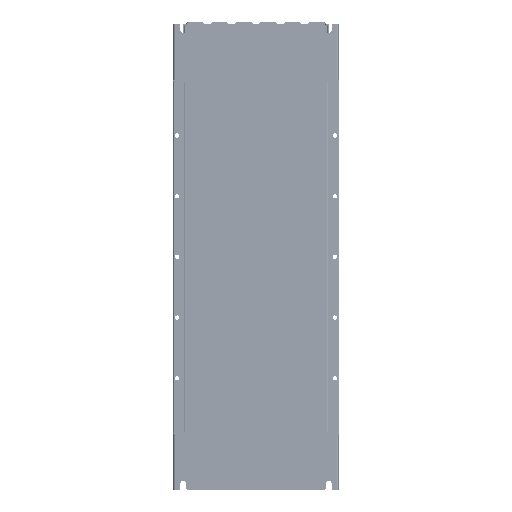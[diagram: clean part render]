
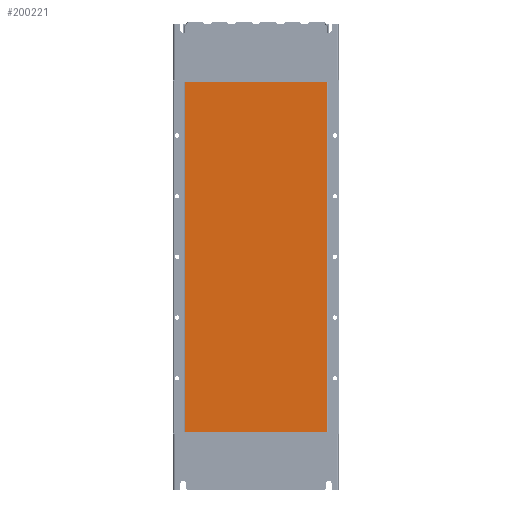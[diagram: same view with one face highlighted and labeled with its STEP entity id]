
A CAD part, front view. The second image highlights one B-rep face of the part: STEP entity #200221.
In plain terms, the highlighted planar face has unit normal (0, -1, 0).
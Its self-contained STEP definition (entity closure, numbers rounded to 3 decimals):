
#119202 = CARTESIAN_POINT ( 'NONE',  ( -146.5, -176.5, -19. ) ) ;
#119219 = DIRECTION ( 'NONE',  ( 0., 0., -1. ) ) ;
#119220 = VECTOR ( 'NONE', #119219, 1000. ) ;
#119224 = CARTESIAN_POINT ( 'NONE',  ( -146.5, -176.5, -19. ) ) ;
#119225 = LINE ( 'NONE', #119224, #119220 ) ;
#119278 = CARTESIAN_POINT ( 'NONE',  ( -146.5, -176.5, -901. ) ) ;
#126670 = CARTESIAN_POINT ( 'NONE',  ( 146.5, -176.5, -19. ) ) ;
#126673 = DIRECTION ( 'NONE',  ( -1., 0., 0. ) ) ;
#126676 = VECTOR ( 'NONE', #126673, 1000. ) ;
#126679 = CARTESIAN_POINT ( 'NONE',  ( -149., -176.5, -19. ) ) ;
#126682 = LINE ( 'NONE', #126679, #126676 ) ;
#127563 = CARTESIAN_POINT ( 'NONE',  ( 146.5, -176.5, -901. ) ) ;
#127856 = DIRECTION ( 'NONE',  ( 0., 0., -1. ) ) ;
#127858 = DIRECTION ( 'NONE',  ( 0., -1., 0. ) ) ;
#127861 = CARTESIAN_POINT ( 'NONE',  ( 100., -176.5, -87. ) ) ;
#127862 = AXIS2_PLACEMENT_3D ( 'NONE', #127861, #127858, #127856 ) ;
#127865 = CIRCLE ( 'NONE', #127862, 3.4 ) ;
#127879 = CARTESIAN_POINT ( 'NONE',  ( 100., -176.5, -83.6 ) ) ;
#127892 = CARTESIAN_POINT ( 'NONE',  ( 100., -176.5, -90.4 ) ) ;
#127895 = DIRECTION ( 'NONE',  ( 0., 0., -1. ) ) ;
#127898 = DIRECTION ( 'NONE',  ( 0., -1., 0. ) ) ;
#127899 = CARTESIAN_POINT ( 'NONE',  ( 100., -176.5, -87. ) ) ;
#127901 = AXIS2_PLACEMENT_3D ( 'NONE', #127899, #127898, #127895 ) ;
#127902 = CIRCLE ( 'NONE', #127901, 3.4 ) ;
#127913 = DIRECTION ( 'NONE',  ( 0., 0., -1. ) ) ;
#127916 = DIRECTION ( 'NONE',  ( 0., -1., 0. ) ) ;
#127918 = CARTESIAN_POINT ( 'NONE',  ( -149., -176.5, -19. ) ) ;
#127920 = AXIS2_PLACEMENT_3D ( 'NONE', #127918, #127916, #127913 ) ;
#127923 = PLANE ( 'NONE',  #127920 ) ;
#127931 = FACE_OUTER_BOUND ( 'NONE', #200386, .T. ) ;
#127933 = FACE_BOUND ( 'NONE', #200351, .T. ) ;
#127935 = FACE_BOUND ( 'NONE', #200261, .T. ) ;
#127938 = FACE_BOUND ( 'NONE', #200223, .T. ) ;
#127945 = DIRECTION ( 'NONE',  ( 0., 0., -1. ) ) ;
#127946 = VECTOR ( 'NONE', #127945, 1000. ) ;
#127949 = CARTESIAN_POINT ( 'NONE',  ( 146.5, -176.5, -19. ) ) ;
#127951 = LINE ( 'NONE', #127949, #127946 ) ;
#128085 = DIRECTION ( 'NONE',  ( 0., 0., -1. ) ) ;
#128088 = DIRECTION ( 'NONE',  ( 0., -1., 0. ) ) ;
#128091 = CARTESIAN_POINT ( 'NONE',  ( -100., -176.5, -87. ) ) ;
#128092 = AXIS2_PLACEMENT_3D ( 'NONE', #128091, #128088, #128085 ) ;
#128094 = CIRCLE ( 'NONE', #128092, 3.4 ) ;
#128105 = CARTESIAN_POINT ( 'NONE',  ( -100., -176.5, -83.6 ) ) ;
#128120 = CARTESIAN_POINT ( 'NONE',  ( -100., -176.5, -90.4 ) ) ;
#128123 = DIRECTION ( 'NONE',  ( 0., 0., -1. ) ) ;
#128127 = DIRECTION ( 'NONE',  ( 0., -1., 0. ) ) ;
#128129 = CARTESIAN_POINT ( 'NONE',  ( -100., -176.5, -87. ) ) ;
#128130 = AXIS2_PLACEMENT_3D ( 'NONE', #128129, #128127, #128123 ) ;
#128132 = CIRCLE ( 'NONE', #128130, 3.4 ) ;
#128202 = DIRECTION ( 'NONE',  ( -1., 0., 0. ) ) ;
#128204 = VECTOR ( 'NONE', #128202, 1000. ) ;
#128207 = CARTESIAN_POINT ( 'NONE',  ( -149., -176.5, -901. ) ) ;
#128209 = LINE ( 'NONE', #128207, #128204 ) ;
#128237 = DIRECTION ( 'NONE',  ( 0., 0., -1. ) ) ;
#128240 = DIRECTION ( 'NONE',  ( 0., -1., 0. ) ) ;
#128242 = CARTESIAN_POINT ( 'NONE',  ( 0., -176.5, -87. ) ) ;
#128244 = AXIS2_PLACEMENT_3D ( 'NONE', #128242, #128240, #128237 ) ;
#128246 = CIRCLE ( 'NONE', #128244, 3.4 ) ;
#128259 = CARTESIAN_POINT ( 'NONE',  ( 0., -176.5, -83.6 ) ) ;
#128286 = CARTESIAN_POINT ( 'NONE',  ( 0., -176.5, -90.4 ) ) ;
#128288 = DIRECTION ( 'NONE',  ( 0., 0., -1. ) ) ;
#128290 = DIRECTION ( 'NONE',  ( 0., -1., 0. ) ) ;
#128292 = CARTESIAN_POINT ( 'NONE',  ( 0., -176.5, -87. ) ) ;
#128294 = AXIS2_PLACEMENT_3D ( 'NONE', #128292, #128290, #128288 ) ;
#128296 = CIRCLE ( 'NONE', #128294, 3.4 ) ;
#196795 = VERTEX_POINT ( 'NONE', #119278 ) ;
#196814 = EDGE_CURVE ( 'NONE', #196821, #196795, #119225, .T. ) ;
#196821 = VERTEX_POINT ( 'NONE', #119202 ) ;
#199797 = EDGE_CURVE ( 'NONE', #199801, #196821, #126682, .T. ) ;
#199801 = VERTEX_POINT ( 'NONE', #126670 ) ;
#200117 = VERTEX_POINT ( 'NONE', #127563 ) ;
#200213 = EDGE_CURVE ( 'NONE', #199801, #200117, #127951, .T. ) ;
#200221 = ADVANCED_FACE ( 'NONE', ( #127938, #127935, #127933, #127931 ), #127923, .T. ) ;
#200223 = EDGE_LOOP ( 'NONE', ( #200228, #200247 ) ) ;
#200228 = ORIENTED_EDGE ( 'NONE', *, *, #200233, .F. ) ;
#200233 = EDGE_CURVE ( 'NONE', #200236, #200242, #127902, .T. ) ;
#200236 = VERTEX_POINT ( 'NONE', #127892 ) ;
#200242 = VERTEX_POINT ( 'NONE', #127879 ) ;
#200247 = ORIENTED_EDGE ( 'NONE', *, *, #200253, .F. ) ;
#200253 = EDGE_CURVE ( 'NONE', #200242, #200236, #127865, .T. ) ;
#200261 = EDGE_LOOP ( 'NONE', ( #200327, #200343 ) ) ;
#200327 = ORIENTED_EDGE ( 'NONE', *, *, #200328, .F. ) ;
#200328 = EDGE_CURVE ( 'NONE', #200333, #200339, #128132, .T. ) ;
#200333 = VERTEX_POINT ( 'NONE', #128120 ) ;
#200339 = VERTEX_POINT ( 'NONE', #128105 ) ;
#200343 = ORIENTED_EDGE ( 'NONE', *, *, #200345, .F. ) ;
#200345 = EDGE_CURVE ( 'NONE', #200339, #200333, #128094, .T. ) ;
#200351 = EDGE_LOOP ( 'NONE', ( #200357, #200376 ) ) ;
#200357 = ORIENTED_EDGE ( 'NONE', *, *, #200362, .F. ) ;
#200362 = EDGE_CURVE ( 'NONE', #200365, #200371, #128296, .T. ) ;
#200365 = VERTEX_POINT ( 'NONE', #128286 ) ;
#200371 = VERTEX_POINT ( 'NONE', #128259 ) ;
#200376 = ORIENTED_EDGE ( 'NONE', *, *, #200379, .F. ) ;
#200379 = EDGE_CURVE ( 'NONE', #200371, #200365, #128246, .T. ) ;
#200386 = EDGE_LOOP ( 'NONE', ( #200393, #200445, #200455, #200466 ) ) ;
#200393 = ORIENTED_EDGE ( 'NONE', *, *, #200394, .F. ) ;
#200394 = EDGE_CURVE ( 'NONE', #200117, #196795, #128209, .T. ) ;
#200445 = ORIENTED_EDGE ( 'NONE', *, *, #200213, .F. ) ;
#200455 = ORIENTED_EDGE ( 'NONE', *, *, #199797, .T. ) ;
#200466 = ORIENTED_EDGE ( 'NONE', *, *, #196814, .T. ) ;
